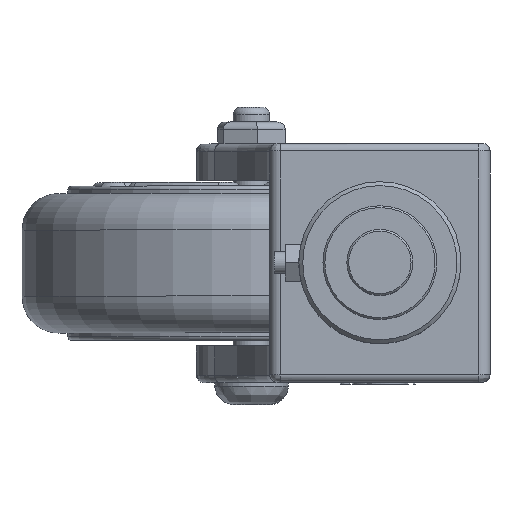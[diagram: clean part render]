
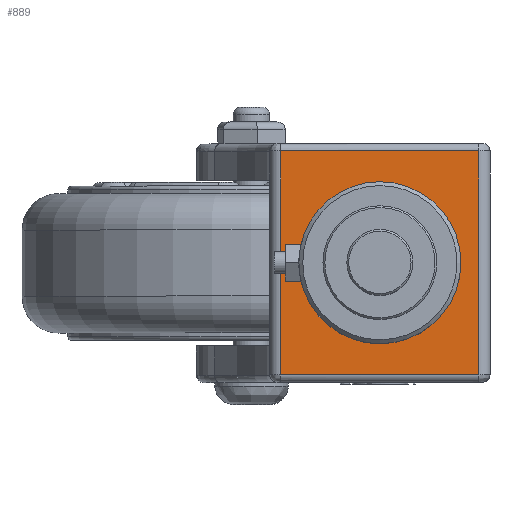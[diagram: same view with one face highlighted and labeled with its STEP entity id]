
A CAD part, top view. The second image highlights one B-rep face of the part: STEP entity #889.
In plain terms, the highlighted planar face has unit normal (0, 0, 1).
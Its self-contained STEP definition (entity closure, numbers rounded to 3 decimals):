
#889=ADVANCED_FACE('',(#1568,#1569),#1315,.T.);
#1315=PLANE('',#7426);
#1568=FACE_BOUND('',#1735,.T.);
#1569=FACE_BOUND('',#1736,.T.);
#1735=EDGE_LOOP('',(#3258));
#1736=EDGE_LOOP('',(#3259,#3260,#3261,#3262));
#2276=LINE('',#11048,#2665);
#2277=LINE('',#11052,#2666);
#2278=LINE('',#11054,#2667);
#2279=LINE('',#11056,#2668);
#2665=VECTOR('',#8421,1.);
#2666=VECTOR('',#8426,1.);
#2667=VECTOR('',#8427,1.);
#2668=VECTOR('',#8428,1.);
#3258=ORIENTED_EDGE('',*,*,#6031,.F.);
#3259=ORIENTED_EDGE('',*,*,#6091,.T.);
#3260=ORIENTED_EDGE('',*,*,#6093,.T.);
#3261=ORIENTED_EDGE('',*,*,#6094,.F.);
#3262=ORIENTED_EDGE('',*,*,#6095,.T.);
#5309=VERTEX_POINT('',#10925);
#5360=VERTEX_POINT('',#11047);
#5361=VERTEX_POINT('',#11049);
#5362=VERTEX_POINT('',#11053);
#5363=VERTEX_POINT('',#11055);
#6031=EDGE_CURVE('',#5309,#5309,#6962,.T.);
#6091=EDGE_CURVE('',#5361,#5360,#2276,.T.);
#6093=EDGE_CURVE('',#5360,#5362,#2277,.T.);
#6094=EDGE_CURVE('',#5363,#5362,#2278,.T.);
#6095=EDGE_CURVE('',#5363,#5361,#2279,.T.);
#6962=CIRCLE('',#7374,22.074);
#7374=AXIS2_PLACEMENT_3D('',#10924,#8299,#8300);
#7426=AXIS2_PLACEMENT_3D('',#11057,#8429,#8430);
#8299=DIRECTION('',(0.,0.,1.));
#8300=DIRECTION('',(0.,-1.,0.));
#8421=DIRECTION('',(0.,1.,0.));
#8426=DIRECTION('',(-1.,0.,0.));
#8427=DIRECTION('',(0.,1.,0.));
#8428=DIRECTION('',(1.,0.,0.));
#8429=DIRECTION('',(0.,0.,1.));
#8430=DIRECTION('',(0.,1.,0.));
#10924=CARTESIAN_POINT('',(0.,0.,-72.928));
#10925=CARTESIAN_POINT('',(0.,-22.074,-72.928));
#11047=CARTESIAN_POINT('',(27.,30.5,-72.928));
#11048=CARTESIAN_POINT('',(27.,-32.5,-72.928));
#11049=CARTESIAN_POINT('',(27.,-30.5,-72.928));
#11052=CARTESIAN_POINT('',(-27.,30.5,-72.928));
#11053=CARTESIAN_POINT('',(-27.,30.5,-72.928));
#11054=CARTESIAN_POINT('',(-27.,-32.5,-72.928));
#11055=CARTESIAN_POINT('',(-27.,-30.5,-72.928));
#11056=CARTESIAN_POINT('',(-2557.172,-30.5,-72.928));
#11057=CARTESIAN_POINT('',(-2557.172,-32.5,-72.928));
